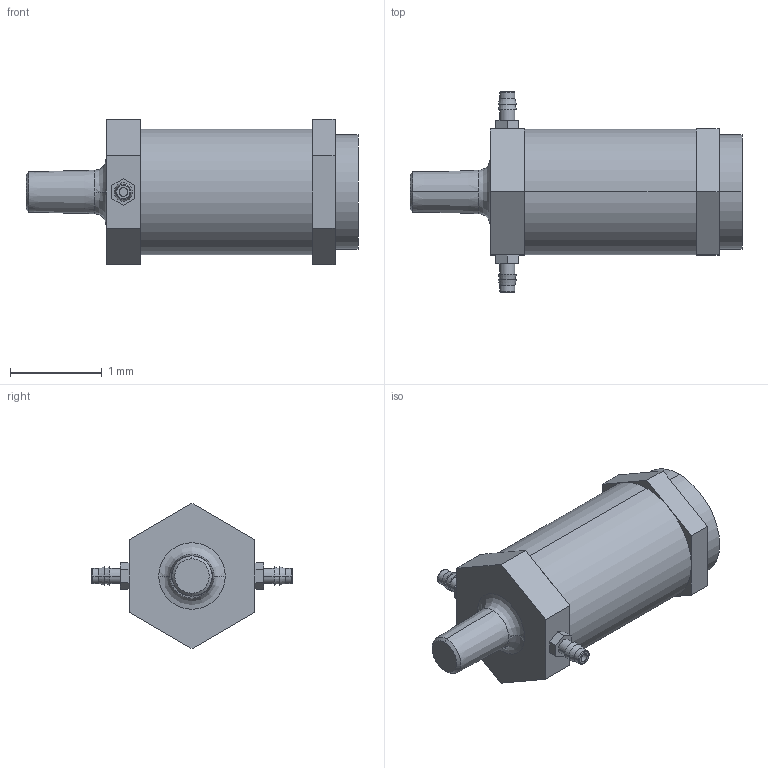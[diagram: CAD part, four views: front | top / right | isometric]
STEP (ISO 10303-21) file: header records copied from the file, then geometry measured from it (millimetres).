
FILE_DESCRIPTION((''),'2;1');
FILE_NAME('UBR3.stp','2017-11-07T11:18:52',(''),(''),'Mechanical Desktop 2011','Mechanical Desktop 2011',', , ');
FILE_SCHEMA(('CONFIG_CONTROL_DESIGN'));
Length unit declared in the file: millimetre
Products named in the file (1): Product
Bounding box: 3.62 x 2.19 x 1.59 mm (x, y, z)
Volume: 4.3 mm3; surface area: 26.1 mm2
Topology: 6 solids, 6 shells, 77 faces, 165 edges, 107 vertices
Faces by surface type: plane 43, cylinder 16, cone 12, torus 4, bspline 2
Entity records: 2265 total; most frequent: CARTESIAN_POINT 438, DIRECTION 382, ORIENTED_EDGE 330, EDGE_CURVE 165, AXIS2_PLACEMENT_3D 141, VERTEX_POINT 107, VECTOR 100, LINE 100
